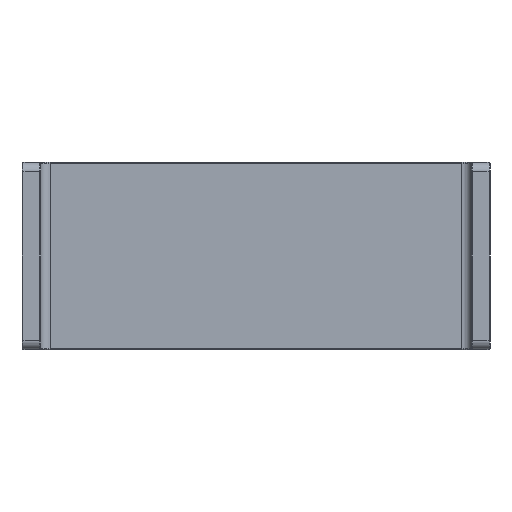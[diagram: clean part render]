
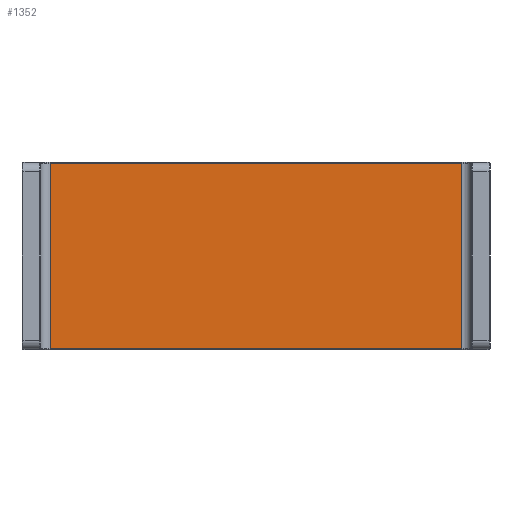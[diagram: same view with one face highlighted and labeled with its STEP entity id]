
A CAD part, left-side view. The second image highlights one B-rep face of the part: STEP entity #1352.
In plain terms, the highlighted planar face has unit normal (-1, 0, 0).
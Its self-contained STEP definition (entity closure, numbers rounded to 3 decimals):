
#3 = DIRECTION ( 'NONE',  ( 0., 0., -1. ) ) ;
#69 = LINE ( 'NONE', #1997, #1702 ) ;
#151 = EDGE_CURVE ( 'NONE', #1071, #1274, #263, .T. ) ;
#186 = PLANE ( 'NONE',  #421 ) ;
#197 = FACE_OUTER_BOUND ( 'NONE', #1152, .T. ) ;
#263 = LINE ( 'NONE', #2065, #1219 ) ;
#264 = VERTEX_POINT ( 'NONE', #510 ) ;
#305 = ORIENTED_EDGE ( 'NONE', *, *, #1247, .T. ) ;
#348 = VECTOR ( 'NONE', #3, 1000. ) ;
#371 = EDGE_CURVE ( 'NONE', #264, #1071, #1303, .T. ) ;
#421 = AXIS2_PLACEMENT_3D ( 'NONE', #824, #1793, #1125 ) ;
#490 = ORIENTED_EDGE ( 'NONE', *, *, #1771, .T. ) ;
#510 = CARTESIAN_POINT ( 'NONE',  ( -120., 220., 99. ) ) ;
#649 = ORIENTED_EDGE ( 'NONE', *, *, #151, .T. ) ;
#819 = CARTESIAN_POINT ( 'NONE',  ( -120., -220., 100. ) ) ;
#821 = VERTEX_POINT ( 'NONE', #1364 ) ;
#824 = CARTESIAN_POINT ( 'NONE',  ( -120., -230., -100. ) ) ;
#1001 = VECTOR ( 'NONE', #1305, 1000. ) ;
#1071 = VERTEX_POINT ( 'NONE', #1643 ) ;
#1125 = DIRECTION ( 'NONE',  ( 0., 0., 1. ) ) ;
#1152 = EDGE_LOOP ( 'NONE', ( #2010, #649, #490, #305 ) ) ;
#1187 = CARTESIAN_POINT ( 'NONE',  ( -120., -220., -99. ) ) ;
#1214 = DIRECTION ( 'NONE',  ( 0., 1., 0. ) ) ;
#1219 = VECTOR ( 'NONE', #1905, 1000. ) ;
#1247 = EDGE_CURVE ( 'NONE', #821, #264, #69, .T. ) ;
#1274 = VERTEX_POINT ( 'NONE', #1187 ) ;
#1303 = LINE ( 'NONE', #1617, #348 ) ;
#1305 = DIRECTION ( 'NONE',  ( 0., 0., 1. ) ) ;
#1352 = ADVANCED_FACE ( 'NONE', ( #197 ), #186, .T. ) ;
#1364 = CARTESIAN_POINT ( 'NONE',  ( -120., -220., 99. ) ) ;
#1617 = CARTESIAN_POINT ( 'NONE',  ( -120., 220., -100. ) ) ;
#1643 = CARTESIAN_POINT ( 'NONE',  ( -120., 220., -99. ) ) ;
#1702 = VECTOR ( 'NONE', #1214, 1000. ) ;
#1771 = EDGE_CURVE ( 'NONE', #1274, #821, #1786, .T. ) ;
#1786 = LINE ( 'NONE', #819, #1001 ) ;
#1793 = DIRECTION ( 'NONE',  ( -1., 0., 0. ) ) ;
#1905 = DIRECTION ( 'NONE',  ( 0., -1., 0. ) ) ;
#1997 = CARTESIAN_POINT ( 'NONE',  ( -120., -230., 99. ) ) ;
#2010 = ORIENTED_EDGE ( 'NONE', *, *, #371, .T. ) ;
#2065 = CARTESIAN_POINT ( 'NONE',  ( -120., -220., -99. ) ) ;
